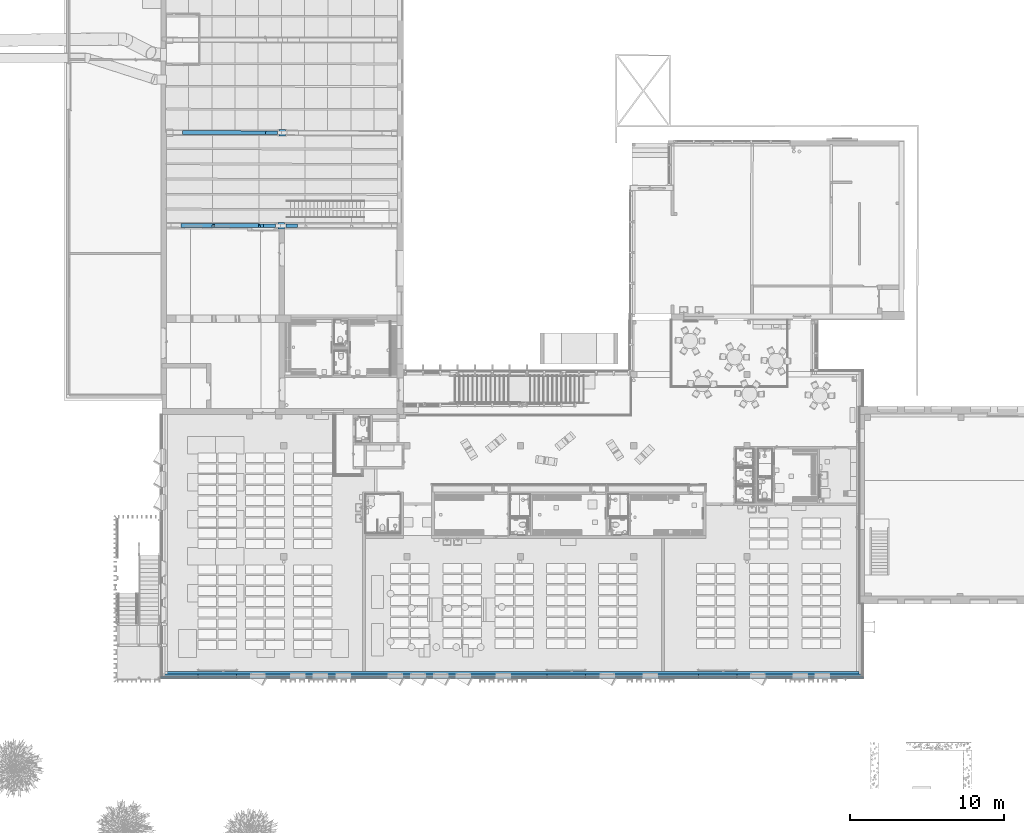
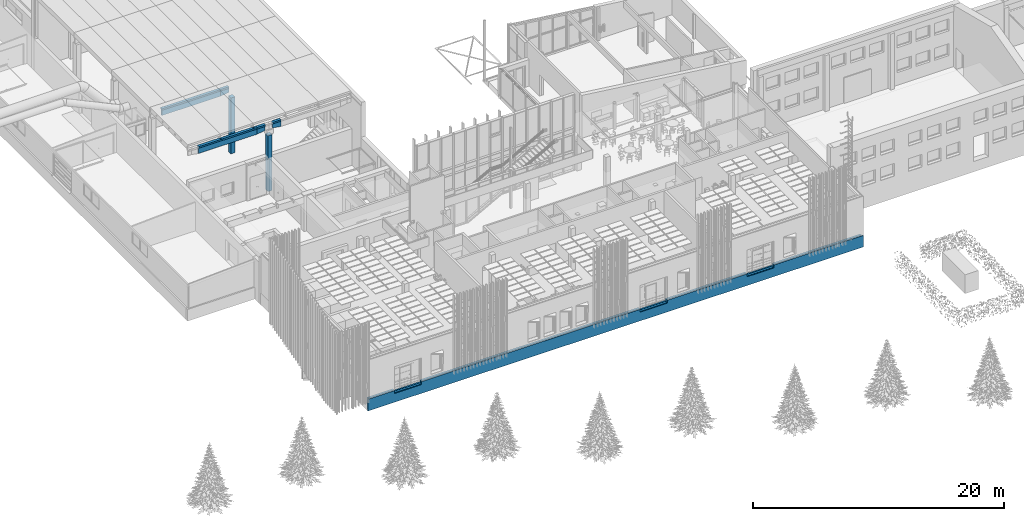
# One storey, part 183 of 301: 10 building element parts, 6 openings, 6 elements without a shape of their own.
"""IFC2X3 building model written with IfcOpenShell, lengths in millimetres."""

from ifc_helpers import new_model, entity, si_unit, converted_unit, derived_unit, money_unit, direction, frame, origin_with_axes, place, context, subcontext, project, spatial, faceted_brep, material, type_object, element, aggregate, save


model = new_model("IFC2X3")

# Units and contexts
model_context = context("Model", 3, precision=0.01, world=origin_with_axes(), true_north=direction((0.0, 1.0)))
body_context = subcontext(model_context, "Body", "Model", "MODEL_VIEW")
ifc_project = project(units=[si_unit("LENGTHUNIT", "METRE", prefix="MILLI"), si_unit("AREAUNIT", "SQUARE_METRE"), si_unit("VOLUMEUNIT", "CUBIC_METRE"), converted_unit("PLANEANGLEUNIT", "DEGREE", entity("IfcPlaneAngleMeasure", 0.0174532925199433), si_unit("PLANEANGLEUNIT", "RADIAN"), dimensions=[0, 0, 0, 0, 0, 0, 0]), money_unit("EUR"), converted_unit("TIMEUNIT", "Year", entity("IfcTimeMeasure", 31557600.0), si_unit("TIMEUNIT", "SECOND"), dimensions=[0, 0, 1, 0, 0, 0, 0]), si_unit("MASSUNIT", "GRAM", prefix="KILO"), si_unit("THERMODYNAMICTEMPERATUREUNIT", "DEGREE_CELSIUS"), si_unit("LUMINOUSINTENSITYUNIT", "LUMEN"), si_unit("ENERGYUNIT", "JOULE", prefix="MEGA"), derived_unit("THERMALCONDUCTANCEUNIT", [(si_unit("POWERUNIT", "WATT"), 1), (si_unit("LENGTHUNIT", "METRE"), -1), (si_unit("THERMODYNAMICTEMPERATUREUNIT", "KELVIN"), -1)]), derived_unit("SPECIFICHEATCAPACITYUNIT", [(si_unit("ENERGYUNIT", "JOULE"), 1), (si_unit("MASSUNIT", "GRAM", prefix="KILO"), -1), (si_unit("THERMODYNAMICTEMPERATUREUNIT", "KELVIN"), -1)]), derived_unit("MASSDENSITYUNIT", [(si_unit("MASSUNIT", "GRAM", prefix="KILO"), 1), (si_unit("VOLUMEUNIT", "CUBIC_METRE"), -1)])], contexts=[model_context])

# Site, building, storey
site_placement = place(None, frame((0.0, 0.0, 8650.0), z_axis=(0.0, 0.0, 1.0), x_axis=(1.0, 0.0, 0.0)))
site = spatial("IfcSite", under=ifc_project, at=site_placement, Name="43301:001:0844", CompositionType="ELEMENT")
building_placement = place(site_placement, origin_with_axes())
building = spatial("IfcBuilding", under=site, at=building_placement, Name="Kuressaare Ametikooli tuulikute mehaanikute õppekorpus", CompositionType="ELEMENT")
storey_placement = place(building_placement, origin_with_axes())
storey = spatial("IfcBuildingStorey", under=building, at=storey_placement, Name="1.korrus", CompositionType="ELEMENT", Elevation=0.0)

# Wall, openings, building element parts
wall_type = type_object("IfcWallType", Name="TUUL_vundament 440 x 1150", PredefinedType="NOTDEFINED")
wall_placement = place(storey_placement, frame((88168.22664518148, 8973.838490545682, 0.0), z_axis=(0.0, 0.0, 1.0), x_axis=(1.0, 0.0, 0.0)))
wall = element("IfcWall", 1, at=wall_placement, inside=storey, type_object=wall_type, Name="Sokkel")
opening_1_placement = place(wall_placement, frame((3369.784964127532, 0.0, 11300.0), z_axis=(0.0, 0.0, 1.0), x_axis=(1.0, 0.0, 0.0)))
element("IfcOpeningElement", 2, at=opening_1_placement, cuts=wall, Name="ava", context=body_context, shape_type="Brep", body=[
    faceted_brep([(1250.0, -119.9999999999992, 0.0), (1250.0, -119.9999999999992, 300.0000000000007), (1250.0, -290.9999999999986, 300.0000000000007), (1250.0, -290.9999999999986, 0.0), (1250.0, 150.9999999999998, 0.0), (1250.0, 150.9999999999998, 300.0000000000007), (-1250.0, -119.9999999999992, 300.0000000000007), (-1250.0, -290.9999999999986, 300.0000000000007), (-1250.0, -290.9999999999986, 0.0), (-1250.0, -119.9999999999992, 0.0), (-1250.0, 150.9999999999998, 0.0), (-1250.0, 150.9999999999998, 300.0000000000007)], [[[0, 1, 2, 3]], [[1, 0, 4, 5]], [[1, 6, 7, 2]], [[8, 3, 2, 7]], [[9, 0, 3, 8]], [[0, 9, 10, 4]], [[5, 4, 10, 11]], [[6, 1, 5, 11]], [[6, 9, 8, 7]], [[9, 6, 11, 10]]]),
])
opening_2_placement = place(wall_placement, frame((2492.003890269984, 0.0, 11300.0), z_axis=(0.0, 0.0, 1.0), x_axis=(1.0, 0.0, 0.0)))
element("IfcOpeningElement", 3, at=opening_2_placement, cuts=wall, Name="ava", context=body_context, shape_type="Brep", body=[
    faceted_brep([(1250.0, -119.9999999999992, 0.0), (1250.0, -119.9999999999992, 300.0000000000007), (1250.0, -290.9999999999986, 300.0000000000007), (1250.0, -290.9999999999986, 0.0), (1250.0, 150.9999999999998, 0.0), (1250.0, 150.9999999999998, 300.0000000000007), (-1250.0, -119.9999999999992, 300.0000000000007), (-1250.0, -290.9999999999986, 300.0000000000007), (-1250.0, -290.9999999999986, 0.0), (-1250.0, -119.9999999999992, 0.0), (-1250.0, 150.9999999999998, 0.0), (-1250.0, 150.9999999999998, 300.0000000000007)], [[[0, 1, 2, 3]], [[1, 0, 4, 5]], [[1, 6, 7, 2]], [[8, 3, 2, 7]], [[9, 0, 3, 8]], [[0, 9, 10, 4]], [[5, 4, 10, 11]], [[6, 1, 5, 11]], [[6, 9, 8, 7]], [[9, 6, 11, 10]]]),
])
opening_3_placement = place(wall_placement, frame((2815.055578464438, 0.0, 11300.0), z_axis=(0.0, 0.0, 1.0), x_axis=(1.0, 0.0, 0.0)))
element("IfcOpeningElement", 4, at=opening_3_placement, cuts=wall, Name="ava", context=body_context, shape_type="Brep", body=[
    faceted_brep([(1250.0, -119.9999999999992, 0.0), (1250.0, -119.9999999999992, 300.0000000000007), (1250.0, -290.9999999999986, 300.0000000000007), (1250.0, -290.9999999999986, 0.0), (1250.0, 150.9999999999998, 0.0), (1250.0, 150.9999999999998, 300.0000000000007), (-1250.0, -119.9999999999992, 300.0000000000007), (-1250.0, -290.9999999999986, 300.0000000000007), (-1250.0, -290.9999999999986, 0.0), (-1250.0, -119.9999999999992, 0.0), (-1250.0, 150.9999999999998, 0.0), (-1250.0, 150.9999999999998, 300.0000000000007)], [[[0, 1, 2, 3]], [[1, 0, 4, 5]], [[1, 6, 7, 2]], [[8, 3, 2, 7]], [[9, 0, 3, 8]], [[0, 9, 10, 4]], [[5, 4, 10, 11]], [[6, 1, 5, 11]], [[6, 9, 8, 7]], [[9, 6, 11, 10]]]),
])
opening_4_placement = place(wall_placement, frame((26008.04637146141, 0.0, 0.0), z_axis=(0.0, 0.0, 1.0), x_axis=(1.0, 0.0, 0.0)))
element("IfcOpeningElement", 5, at=opening_4_placement, cuts=wall, Name="ava", context=body_context, shape_type="Brep", body=[
    faceted_brep([(1250.0, -119.9999999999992, 0.0), (1250.0, -119.9999999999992, 300.0), (1250.0, -290.9999999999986, 300.0), (1250.0, -290.9999999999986, 0.0), (1250.0, 150.9999999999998, 0.0), (1250.0, 150.9999999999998, 300.0), (-1250.0, -119.9999999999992, 300.0), (-1250.0, -290.9999999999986, 300.0), (-1250.0, -290.9999999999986, 0.0), (-1250.0, -119.9999999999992, 0.0), (-1250.0, 150.9999999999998, 0.0), (-1250.0, 150.9999999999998, 300.0)], [[[0, 1, 2, 3]], [[1, 0, 4, 5]], [[1, 6, 7, 2]], [[8, 3, 2, 7]], [[9, 0, 3, 8]], [[0, 9, 10, 4]], [[5, 4, 10, 11]], [[6, 1, 5, 11]], [[6, 9, 8, 7]], [[9, 6, 11, 10]]]),
])
opening_5_placement = place(wall_placement, frame((35837.49311050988, 0.0, 0.0), z_axis=(0.0, 0.0, 1.0), x_axis=(1.0, 0.0, 0.0)))
element("IfcOpeningElement", 6, at=opening_5_placement, cuts=wall, Name="ava", context=body_context, shape_type="Brep", body=[
    faceted_brep([(1250.0, -119.9999999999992, 0.0), (1250.0, -119.9999999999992, 300.0), (1250.0, -290.9999999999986, 300.0), (1250.0, -290.9999999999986, 0.0), (1250.0, 150.9999999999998, 0.0), (1250.0, 150.9999999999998, 300.0), (-1250.0, -119.9999999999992, 300.0), (-1250.0, -290.9999999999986, 300.0), (-1250.0, -290.9999999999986, 0.0), (-1250.0, -119.9999999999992, 0.0), (-1250.0, 150.9999999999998, 0.0), (-1250.0, 150.9999999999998, 300.0)], [[[0, 1, 2, 3]], [[1, 0, 4, 5]], [[1, 6, 7, 2]], [[8, 3, 2, 7]], [[9, 0, 3, 8]], [[0, 9, 10, 4]], [[5, 4, 10, 11]], [[6, 1, 5, 11]], [[6, 9, 8, 7]], [[9, 6, 11, 10]]]),
])
opening_6_placement = place(wall_placement, frame((3395.493110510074, 0.0, 0.0), z_axis=(0.0, 0.0, 1.0), x_axis=(1.0, 0.0, 0.0)))
element("IfcOpeningElement", 7, at=opening_6_placement, cuts=wall, Name="ava", context=body_context, shape_type="Brep", body=[
    faceted_brep([(1250.0, -119.9999999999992, 0.0), (1250.0, -119.9999999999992, 300.0), (1250.0, -290.9999999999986, 300.0), (1250.0, -290.9999999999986, 0.0), (1250.0, 150.9999999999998, 0.0), (1250.0, 150.9999999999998, 300.0), (-1250.0, -119.9999999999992, 300.0), (-1250.0, -290.9999999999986, 300.0), (-1250.0, -290.9999999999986, 0.0), (-1250.0, -119.9999999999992, 0.0), (-1250.0, 150.9999999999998, 0.0), (-1250.0, 150.9999999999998, 300.0)], [[[0, 1, 2, 3]], [[1, 0, 4, 5]], [[1, 6, 7, 2]], [[8, 3, 2, 7]], [[9, 0, 3, 8]], [[0, 9, 10, 4]], [[5, 4, 10, 11]], [[6, 1, 5, 11]], [[6, 9, 8, 7]], [[9, 6, 11, 10]]]),
])
ifc_material_1 = material(Name="Betoon - C30/37")
building_element_part_1_placement = place(wall_placement, origin_with_axes())
building_element_part_1 = element("IfcBuildingElementPart", 8, at=building_element_part_1_placement, material=ifc_material_1, Name="Betoon - C30/37", context=body_context, shape_type="Brep", body=[
    faceted_brep([(-4.47035120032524e-06, 150.0000000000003, -850.0000000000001), (-4.47035120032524e-06, 150.0000000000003, 8.195646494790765e-06), (45006.71980093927, 150.0000000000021, 8.195646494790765e-06), (45006.71980093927, 150.0000000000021, -850.0000000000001), (-4.47035120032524e-06, 0.0, 8.195646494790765e-06), (-4.47035120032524e-06, 0.0, -850.0000000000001), (45006.71980093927, 0.0, 8.195646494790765e-06), (45006.71980093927, 0.0, -850.0000000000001)], [[[0, 1, 2, 3]], [[4, 1, 0, 5]], [[1, 4, 6, 2]], [[3, 2, 6, 7]], [[5, 0, 3, 7]], [[4, 5, 7, 6]]]),
])
ifc_material_2 = material(Name="Soojustus - Vahtpolüstüreen")
building_element_part_2_placement = place(wall_placement, origin_with_axes())
building_element_part_2 = element("IfcBuildingElementPart", 9, at=building_element_part_2_placement, material=ifc_material_2, Name="Soojustus - Vahtpolüstüreen", context=body_context, shape_type="Brep", body=[
    faceted_brep([(37087.49311050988, -4.470349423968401e-06, 0.0), (37087.49311050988, -4.470349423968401e-06, 300.0000000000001), (45206.71979646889, -4.470349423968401e-06, 300.0000000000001), (45206.71979646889, -4.470349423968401e-06, 0.0), (37087.49311050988, -119.9999999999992, 300.0000000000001), (37087.49311050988, -200.0000104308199, 0.0), (37087.49311050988, -200.0000104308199, 300.0000000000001), (45206.71979646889, -200.0000104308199, 300.0000000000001), (45206.71979646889, -200.0000104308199, -850.0000000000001), (45206.71979646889, -4.470349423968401e-06, -850.0000000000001), (34587.49311050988, -4.47035120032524e-06, 0.0), (-200.0000000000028, -4.470352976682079e-06, -850.0000000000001), (-200.0000000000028, -4.470352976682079e-06, 0.0), (2145.493110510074, -4.470352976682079e-06, 0.0), (4645.493110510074, -4.470352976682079e-06, 0.0), (24758.04637146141, -4.47035120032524e-06, 0.0), (27258.04637146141, -4.47035120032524e-06, 0.0), (34587.49311050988, -200.0000104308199, 0.0), (34587.49311050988, -200.0000104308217, 300.0000000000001), (27258.04637146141, -200.0000104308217, 300.0000000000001), (27258.04637146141, -200.0000104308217, 0.0), (24758.04637146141, -200.0000104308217, 0.0), (24758.04637146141, -200.0000104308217, 300.0000000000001), (4645.493110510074, -200.0000104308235, 300.0000000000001), (4645.493110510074, -200.0000104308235, 0.0), (2145.493110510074, -200.0000104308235, 0.0), (2145.493110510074, -200.0000104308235, 300.0000000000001), (-200.0000000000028, -200.0000104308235, 300.0000000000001), (-200.0000000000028, -200.0000104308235, -850.0000000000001), (-200.0000000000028, -4.470352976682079e-06, 300.0000000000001), (2145.493110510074, -4.470352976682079e-06, 300.0000000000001), (4645.493110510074, -4.470352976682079e-06, 300.0000000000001), (24758.04637146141, -4.47035120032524e-06, 300.0000000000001), (34587.49311050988, -4.47035120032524e-06, 300.0000000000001), (27258.04637146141, -4.47035120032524e-06, 300.0000000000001), (34587.49311050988, -119.9999999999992, 300.0000000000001)], [[[0, 1, 2, 3]], [[4, 1, 0, 5, 6]], [[1, 4, 6, 7, 2]], [[7, 8, 9, 3, 2]], [[10, 0, 3, 9, 11, 12, 13, 14, 15, 16]], [[0, 10, 17, 5]], [[7, 6, 5, 17, 18, 19, 20, 21, 22, 23, 24, 25, 26, 27, 28, 8]], [[9, 8, 28, 11]], [[12, 11, 28, 27, 29]], [[30, 13, 12, 29]], [[14, 13, 25, 24]], [[14, 31, 32, 15]], [[21, 20, 16, 15]], [[33, 10, 16, 34]], [[10, 33, 35, 18, 17]], [[35, 33, 34, 19, 18]], [[20, 19, 34, 16]], [[22, 21, 15, 32]], [[23, 22, 32, 31]], [[31, 14, 24, 23]], [[13, 30, 26, 25]], [[30, 29, 27, 26]]]),
])
building_element_part_3_placement = place(wall_placement, origin_with_axes())
building_element_part_3 = element("IfcBuildingElementPart", 10, at=building_element_part_3_placement, material=ifc_material_1, Name="Betoon - C30/37", context=body_context, shape_type="Brep", body=[
    faceted_brep([(34587.49311050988, -199.9999999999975, 0.0), (37087.49311050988, -199.9999999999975, 0.0), (37087.49311050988, -199.9999999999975, 300.0000000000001), (45206.71981733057, -199.9999999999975, 300.0000000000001), (45296.71979944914, -199.9999999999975, 279.9999925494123), (45296.71979944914, -199.9999999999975, -850.0000000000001), (-289.999989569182, -199.9999999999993, -850.0000000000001), (-289.9999895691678, -200.0000000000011, 279.9999925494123), (-200.0000074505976, -199.9999999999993, 300.0000000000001), (2145.493110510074, -199.9999999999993, 300.0000000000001), (2145.493110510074, -199.9999999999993, 0.0), (4645.493110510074, -199.9999999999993, 0.0), (4645.493110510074, -199.9999999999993, 300.0000000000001), (24758.04637146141, -199.9999999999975, 300.0000000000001), (24758.04637146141, -199.9999999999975, 0.0), (27258.04637146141, -199.9999999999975, 0.0), (27258.04637146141, -199.9999999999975, 300.0000000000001), (34587.49311050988, -199.9999999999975, 300.0000000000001), (34587.49311050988, -289.9999999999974, 0.0), (37087.49311050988, -289.9999999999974, 0.0), (37087.49311050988, -289.9999999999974, 279.9999925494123), (45296.71979944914, -289.9999999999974, 279.9999925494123), (45296.71979944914, -289.9999999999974, -850.0000000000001), (-289.999989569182, -289.9999999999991, -850.0000000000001), (-289.9999895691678, -289.9999999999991, 279.9999925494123), (2145.493110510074, -289.9999999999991, 279.9999925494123), (2145.493110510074, -289.9999999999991, 0.0), (4645.493110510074, -289.9999999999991, 0.0), (4645.493110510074, -289.9999999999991, 279.9999925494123), (24758.04637146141, -289.9999999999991, 279.9999925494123), (24758.04637146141, -289.9999999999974, 0.0), (27258.04637146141, -289.9999999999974, 0.0), (27258.04637146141, -289.9999999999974, 279.9999925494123), (34587.49311050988, -289.9999999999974, 279.9999925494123)], [[[0, 1, 2, 3, 4, 5, 6, 7, 8, 9, 10, 11, 12, 13, 14, 15, 16, 17]], [[1, 0, 18, 19]], [[20, 2, 1, 19]], [[2, 20, 21, 3]], [[4, 3, 21]], [[22, 5, 4, 21]], [[22, 23, 6, 5]], [[24, 7, 6, 23]], [[24, 8, 7]], [[8, 24, 25, 9]], [[25, 26, 10, 9]], [[26, 27, 11, 10]], [[11, 27, 28, 12]], [[13, 12, 28, 29]], [[13, 29, 30, 14]], [[14, 30, 31, 15]], [[16, 15, 31, 32]], [[33, 17, 16, 32]], [[0, 17, 33, 18]], [[18, 33, 32, 31, 30, 29, 28, 27, 26, 25, 24, 23, 22, 21, 20, 19]]]),
])
aggregate(wall, [building_element_part_1, building_element_part_2, building_element_part_3])

# Column, building element part
column_type = type_object("IfcColumnType", Name="Various Structures - 3 Segments - 600 x 400 x 5950 (5433+102+415)", PredefinedType="NOTDEFINED")
column_1_placement = place(storey_placement, frame((95767.28142057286, 44068.92395887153, 130.0), z_axis=(0.0, 0.0, 1.0), x_axis=(1.0, 0.0, 0.0)))
column_1 = element("IfcColumn", 11, at=column_1_placement, inside=storey, type_object=column_type)
ifc_material_3 = material(Name="GENEERILINE - KONSTRUKTRIOON")
building_element_part_4_placement = place(column_1_placement, origin_with_axes())
building_element_part_4 = element("IfcBuildingElementPart", 12, at=building_element_part_4_placement, material=ifc_material_3, Name="GENEERILINE - KONSTRUKTRIOON", context=body_context, shape_type="Brep", body=[
    faceted_brep([(-200.0000000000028, -200.0000000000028, 5432.979557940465), (-200.0000000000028, -200.0000000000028, 0.0), (200.0000000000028, -200.0000000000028, 0.0), (200.0000000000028, -200.0000000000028, 5432.979557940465), (-200.0000000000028, 200.0000000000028, 5432.979557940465), (-200.0000000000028, 200.0000000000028, 0.0), (200.0000000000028, 200.0000000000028, 0.0), (200.0000000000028, 200.0000000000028, 5432.979557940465)], [[[0, 1, 2, 3]], [[4, 5, 1, 0]], [[2, 1, 5, 6]], [[3, 2, 6, 7]], [[4, 0, 3, 7]], [[7, 6, 5, 4]]]),
])
aggregate(column_1, [building_element_part_4])

# Beam, building element parts
beam_type_1 = type_object("IfcBeamType", Name="Various Structures - 5 Segments - 250 x 700 x 7470 (262+767+5400+621+420)", PredefinedType="NOTDEFINED")
beam_1_placement = place(storey_placement, frame((95728.83666082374, 44073.08587643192, 6660.0), z_axis=(0.0, 0.0, 1.0), x_axis=(0.001777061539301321, 0.9999984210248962, 0.0)))
beam_1 = element("IfcBeam", 13, at=beam_1_placement, inside=storey, type_object=beam_type_1)
ifc_material_4 = material(Name="Raudbetoon")
building_element_part_5_placement = place(beam_1_placement, origin_with_axes())
building_element_part_5 = element("IfcBuildingElementPart", 14, at=building_element_part_5_placement, material=ifc_material_4, Name="Raudbetoon", context=body_context, shape_type="Brep", body=[
    faceted_brep([(125.0049071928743, 837.1265623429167, 0.0), (125.0047820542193, 1028.909484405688, 0.0), (99.19116512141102, 1028.909484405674, 0.0), (97.9539458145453, 261.7777961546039, 0.0), (125.0052826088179, 261.7777961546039, 0.0), (125.0051574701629, 453.5607182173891, 0.0), (125.0046161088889, 1028.909484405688, -75.00000000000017), (-119.9676641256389, 1028.909484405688, 0.0), (-119.96765147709, 1028.909484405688, -4.176709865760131), (99.19115247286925, 1028.909484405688, -4.176709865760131), (125.0044501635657, 1028.909484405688, -150.0000000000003), (64.99999999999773, 1028.909484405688, -164.4010680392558), (64.99999999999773, 1028.909484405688, -699.9999999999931), (-64.99999999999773, 1028.909484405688, -699.9999999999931), (-64.99999999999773, 1028.909484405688, -164.4010680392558), (-125.0044501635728, 1028.909484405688, -150.0000000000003), (-125.004616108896, 1028.909484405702, -75.00000000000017), (-125.0047820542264, 1028.909484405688, 0.0), (97.95393316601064, 261.7777961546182, -4.176709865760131), (-121.2048707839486, 261.7777961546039, -4.176709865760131), (-121.2048834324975, 261.7777961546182, 0.0), (-125.0052826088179, 261.7777961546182, 0.0), (-125.00513693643, 261.7777961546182, -75.00000000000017), (-125.0049912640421, 261.7777961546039, -150.0000000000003), (-65.00000000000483, 261.7777961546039, -164.4011979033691), (-65.00000000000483, 261.7777961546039, -579.8231697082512), (64.99999999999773, 261.7777961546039, -579.8231697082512), (64.99999999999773, 261.7777961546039, -164.4011979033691), (125.004991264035, 261.7777961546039, -150.0000000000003), (125.0051369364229, 261.7777961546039, -75.00000000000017), (125.0048765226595, 645.3436402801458, -75.00000000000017), (125.0045854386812, 837.1265623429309, -150.0000000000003), (125.0048559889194, 453.5607182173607, -150.0000000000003), (-125.0045854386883, 837.1265623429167, -150.0000000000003), (-125.0048559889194, 453.5607182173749, -150.0000000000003), (-125.0049071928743, 837.1265623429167, 0.0), (-125.0051574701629, 453.5607182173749, 0.0), (-125.0048765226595, 645.3436402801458, -75.00000000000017)], [[[0, 1, 2, 3, 4, 5]], [[0, 6, 1]], [[7, 8, 9, 2, 1, 6, 10, 11, 12, 13, 14, 15, 16, 17]], [[2, 9, 18, 3]], [[3, 18, 19, 20, 21, 22, 23, 24, 25, 26, 27, 28, 29, 4]], [[4, 29, 5]], [[5, 30, 0]], [[31, 6, 0, 30]], [[19, 8, 7, 20]], [[9, 8, 19, 18]], [[31, 10, 6]], [[27, 11, 10, 31, 32, 28]], [[26, 12, 11, 27]], [[26, 25, 13, 12]], [[24, 14, 13, 25]], [[33, 15, 14, 24, 23, 34]], [[33, 16, 15]], [[35, 17, 16]], [[36, 21, 20, 7, 17, 35]], [[21, 36, 22]], [[23, 22, 34]], [[28, 32, 29]], [[32, 30, 5, 29]], [[32, 31, 30]], [[34, 37, 33]], [[35, 16, 33, 37]], [[36, 35, 37]], [[36, 37, 34, 22]]]),
])
building_element_part_6_placement = place(beam_1_placement, origin_with_axes())
building_element_part_6 = element("IfcBuildingElementPart", 15, at=building_element_part_6_placement, material=ifc_material_4, Name="Raudbetoon", context=body_context, shape_type="Brep", body=[
    faceted_brep([(125.0055545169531, 6428.927864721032, 0.0), (107.9002395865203, 6428.927864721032, 0.0), (99.19116512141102, 1028.909484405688, 0.0), (125.0055545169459, 1028.909484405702, 0.0), (-111.2585770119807, 6428.927864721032, -4.176709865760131), (107.9002269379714, 6428.927864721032, -4.176709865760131), (125.0052826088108, 6428.927864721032, -150.0000000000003), (64.99999999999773, 6428.927864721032, -164.4012678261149), (64.99999999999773, 6428.927864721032, -700.0000000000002), (-65.00000000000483, 6428.927864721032, -700.0000000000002), (-65.00000000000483, 6428.927864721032, -164.4012678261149), (-125.0052826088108, 6428.927864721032, -150.0000000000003), (-125.0055545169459, 6428.927864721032, 0.0), (-111.2585896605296, 6428.927864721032, 0.0), (99.19115247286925, 1028.909484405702, -4.176709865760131), (-119.9676514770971, 1028.909484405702, -4.176709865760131), (-119.9676641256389, 1028.909484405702, 0.0), (-125.0055545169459, 1028.909484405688, 0.0), (-125.0052826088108, 1028.909484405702, -150.0000000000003), (-64.99999999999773, 1028.909484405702, -164.4012678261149), (-64.99999999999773, 1028.909484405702, -700.0000000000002), (64.99999999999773, 1028.909484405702, -700.0000000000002), (64.99999999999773, 1028.909484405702, -164.4012678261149), (125.0052826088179, 1028.909484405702, -150.0000000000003)], [[[0, 1, 2, 3]], [[4, 5, 1, 0, 6, 7, 8, 9, 10, 11, 12, 13]], [[5, 14, 2, 1]], [[14, 15, 16, 17, 18, 19, 20, 21, 22, 23, 3, 2]], [[3, 23, 6, 0]], [[4, 15, 14, 5]], [[23, 22, 7, 6]], [[22, 21, 8, 7]], [[21, 20, 9, 8]], [[20, 19, 10, 9]], [[19, 18, 11, 10]], [[18, 17, 12, 11]], [[17, 16, 13, 12]], [[4, 13, 16, 15]]]),
])
aggregate(beam_1, [building_element_part_5, building_element_part_6])

# Beam, building element part
beam_type_2 = type_object("IfcBeamType", Name="Various Structures - 5 Segments - 250 x 700 x 7563 (338+766+5468+631+361)", PredefinedType="NOTDEFINED")
beam_2_placement = place(storey_placement, frame((95664.04856966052, 38039.92828517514, 6660.0), z_axis=(0.0, 0.0, 1.0), x_axis=(0.0, -1.0, 0.0)))
beam_2 = element("IfcBeam", 16, at=beam_2_placement, inside=storey, type_object=beam_type_2)
building_element_part_7_placement = place(beam_2_placement, origin_with_axes())
building_element_part_7 = element("IfcBuildingElementPart", 17, at=building_element_part_7_placement, material=ifc_material_4, Name="Raudbetoon", context=body_context, shape_type="Brep", body=[
    faceted_brep([(-123.6696711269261, 1103.687342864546, 0.0), (-125.0047820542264, 1103.687342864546, 0.0), (-125.0049071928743, 912.204711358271, 0.0), (-125.0051574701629, 529.2394483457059, 0.0), (-125.0051821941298, 491.4077321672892, 0.0), (-125.004616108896, 1103.687342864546, -75.00000000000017), (-123.6696557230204, 1103.687342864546, -5.086558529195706), (95.48938454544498, 1103.687342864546, -5.086558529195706), (95.48939994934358, 1103.687342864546, 0.0), (125.0047820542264, 1103.687342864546, 0.0), (125.004616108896, 1103.687342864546, -75.00000000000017), (125.0044501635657, 1103.687342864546, -150.0000000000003), (64.99999999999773, 1103.687342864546, -164.4010680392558), (64.99999999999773, 1103.687342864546, -699.999999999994), (-64.99999999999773, 1103.687342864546, -699.999999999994), (-64.99999999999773, 1103.687342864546, -164.4010680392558), (-125.0044501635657, 1103.687342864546, -150.0000000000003), (-125.0048765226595, 720.7220798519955, -75.00000000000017), (-125.0051369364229, 337.7568168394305, -75.00000000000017), (-125.0052727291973, 337.7568168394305, -5.086558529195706), (-125.0051723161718, 491.4051987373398, -5.086558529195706), (93.81872840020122, 337.7568168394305, -5.086558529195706), (93.81874380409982, 337.7568168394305, 0.0), (125.0052826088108, 337.7568168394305, 0.0), (125.0051574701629, 529.2394483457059, 0.0), (125.0049071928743, 912.204711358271, 0.0), (125.0045854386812, 912.204711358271, -150.0000000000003), (125.0048559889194, 529.2394483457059, -150.0000000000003), (125.004991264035, 337.7568168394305, -150.0000000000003), (64.99999999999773, 337.7568168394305, -164.4011979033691), (64.99999999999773, 337.7568168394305, -579.8231697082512), (-64.99999999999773, 337.7568168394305, -579.8231697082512), (-64.99999999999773, 337.7568168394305, -164.4011979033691), (-125.004991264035, 337.7568168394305, -150.0000000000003), (-125.0048559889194, 529.2394483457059, -150.0000000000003), (-125.0045854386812, 912.204711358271, -150.0000000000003), (125.0051369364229, 337.7568168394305, -75.00000000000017), (125.0048765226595, 720.7220798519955, -75.00000000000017)], [[[0, 1, 2, 3, 4]], [[5, 1, 0, 6, 7, 8, 9, 10, 11, 12, 13, 14, 15, 16]], [[1, 5, 2]], [[2, 17, 3]], [[4, 3, 18, 19, 20]], [[6, 0, 4, 20]], [[6, 20, 19, 21, 7]], [[22, 8, 7, 21]], [[23, 24, 25, 9, 8, 22]], [[10, 9, 25]], [[11, 10, 26]], [[27, 28, 29, 12, 11, 26]], [[12, 29, 30, 13]], [[14, 13, 30, 31]], [[14, 31, 32, 15]], [[33, 34, 35, 16, 15, 32]], [[5, 16, 35]], [[35, 17, 2, 5]], [[34, 18, 3, 17]], [[28, 36, 23, 22, 21, 19, 18, 33, 32, 31, 30, 29]], [[36, 24, 23]], [[37, 25, 24]], [[25, 37, 26, 10]], [[27, 36, 28]], [[26, 37, 27]], [[18, 34, 33]], [[17, 35, 34]], [[24, 36, 27, 37]]]),
])
aggregate(beam_2, [building_element_part_7])

# Column, building element part
column_2_placement = place(storey_placement, frame((95702.04856966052, 38045.77166488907, 130.0), z_axis=(0.0, 0.0, 1.0), x_axis=(1.0, 0.0, 0.0)))
column_2 = element("IfcColumn", 18, at=column_2_placement, inside=storey, type_object=column_type)
building_element_part_8_placement = place(column_2_placement, origin_with_axes())
building_element_part_8 = element("IfcBuildingElementPart", 19, at=building_element_part_8_placement, material=ifc_material_3, Name="GENEERILINE - KONSTRUKTRIOON", context=body_context, shape_type="Brep", body=[
    faceted_brep([(-200.0000000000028, -200.0000000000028, 5432.979557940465), (-200.0000000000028, -200.0000000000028, 0.0), (200.0000000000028, -200.0000000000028, 0.0), (200.0000000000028, -200.0000000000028, 5432.979557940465), (-200.0000000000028, 200.0000000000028, 5432.979557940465), (-200.0000000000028, 200.0000000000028, 0.0), (200.0000000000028, 200.0000000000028, 0.0), (200.0000000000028, 200.0000000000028, 5432.979557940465)], [[[0, 1, 2, 3]], [[4, 5, 1, 0]], [[2, 1, 5, 6]], [[3, 2, 6, 7]], [[4, 0, 3, 7]], [[7, 6, 5, 4]]]),
])
aggregate(column_2, [building_element_part_8])

# Beam, building element parts
beam_type_3 = type_object("IfcBeamType", Name="Various Structures - 5 Segments - 250 x 700 x 7406 (338+766+5361+631+310)", PredefinedType="NOTDEFINED")
beam_3_placement = place(storey_placement, frame((95664.04856966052, 38039.92828517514, 6660.0), z_axis=(0.0, 0.0, 1.0), x_axis=(0.00439378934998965, 0.9999903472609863, 0.0)))
beam_3 = element("IfcBeam", 20, at=beam_3_placement, inside=storey, type_object=beam_type_3)
building_element_part_9_placement = place(beam_3_placement, origin_with_axes())
building_element_part_9 = element("IfcBuildingElementPart", 21, at=building_element_part_9_placement, material=ifc_material_4, Name="Raudbetoon", context=body_context, shape_type="Brep", body=[
    faceted_brep([(-125.0045854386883, 912.204711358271, -150.0000000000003), (-125.0046161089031, 1103.687342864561, -75.00000000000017), (-125.0044501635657, 1103.687342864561, -150.0000000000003), (-125.0049071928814, 912.2047113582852, 0.0), (-125.0048765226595, 720.7220798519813, -75.00000000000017), (-65.00000000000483, 1103.687342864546, -164.4010680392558), (-125.0047820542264, 1103.687342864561, 0.0), (-95.52404935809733, 1103.687342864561, 0.0), (-95.52403395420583, 1103.687342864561, -5.086558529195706), (123.6350214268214, 1103.687342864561, -5.086558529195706), (123.6350368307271, 1103.687342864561, 0.0), (125.0047820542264, 1103.687342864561, 0.0), (125.004616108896, 1103.687342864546, -75.00000000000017), (125.0044501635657, 1103.687342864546, -150.0000000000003), (64.99999999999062, 1103.687342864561, -164.4010680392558), (64.99999999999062, 1103.687342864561, -699.9104441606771), (-65.00000000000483, 1103.687342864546, -699.9999999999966), (-64.99999999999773, 337.7568168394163, -164.4011979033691), (-125.0049912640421, 337.7568168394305, -150.0000000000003), (-125.0048559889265, 529.2394483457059, -150.0000000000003), (-125.00515747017, 529.2394483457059, 0.0), (-93.82935187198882, 337.7568168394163, 0.0), (-125.0052826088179, 337.7568168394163, 0.0), (-93.82933646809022, 337.7568168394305, -5.086558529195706), (125.0051768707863, 484.4358903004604, -5.086558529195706), (125.0052727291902, 337.7568168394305, -5.086558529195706), (125.0051867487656, 484.4383877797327, 0.0), (125.0049071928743, 912.2047113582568, 0.0), (125.0051574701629, 529.2394483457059, 0.0), (125.0045854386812, 912.204711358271, -150.0000000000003), (64.99999999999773, 337.7568168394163, -164.4011979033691), (125.0048559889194, 529.2394483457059, -150.0000000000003), (125.0049912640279, 337.7568168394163, -150.0000000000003), (64.99999999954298, 338.8838204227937, -580.0000000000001), (64.99999999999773, 337.7568168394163, -579.8231697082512), (-64.99999999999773, 337.7568168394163, -579.8231697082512), (-125.00513693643, 337.7568168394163, -75.00000000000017), (125.0051369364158, 337.7568168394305, -75.00000000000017), (125.0048765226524, 720.7220798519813, -75.00000000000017)], [[[0, 1, 2]], [[3, 1, 0, 4]], [[5, 2, 1, 6, 7, 8, 9, 10, 11, 12, 13, 14, 15, 16]], [[0, 2, 5, 17, 18, 19]], [[3, 6, 1]], [[4, 0, 19]], [[3, 4, 20]], [[21, 7, 6, 3, 20, 22]], [[23, 8, 7, 21]], [[24, 9, 8, 23, 25]], [[26, 10, 9, 24]], [[27, 11, 10, 26, 28]], [[27, 12, 11]], [[29, 13, 12]], [[30, 14, 13, 29, 31, 32]], [[33, 15, 14, 30, 34]], [[33, 16, 15]], [[17, 5, 16, 35]], [[22, 36, 18, 17, 35, 34, 30, 32, 37, 25, 23, 21]], [[36, 19, 18]], [[4, 19, 36, 20]], [[36, 22, 20]], [[28, 26, 24, 25, 37]], [[38, 27, 28]], [[38, 29, 12, 27]], [[38, 31, 29]], [[31, 37, 32]], [[34, 35, 16, 33]], [[37, 31, 38, 28]]]),
])
building_element_part_10_placement = place(beam_3_placement, origin_with_axes())
building_element_part_10 = element("IfcBuildingElementPart", 22, at=building_element_part_10_placement, material=ifc_material_4, Name="Raudbetoon", context=body_context, shape_type="Brep", body=[
    faceted_brep([(-64.99999999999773, 1103.687342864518, -164.4012678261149), (-64.99999999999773, 1103.687342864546, -699.9999999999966), (64.99999999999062, 1103.687342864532, -699.9104441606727), (64.99999999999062, 1103.687342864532, -164.4012678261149), (125.0052826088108, 1103.687342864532, -150.0000000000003), (125.0055545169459, 1103.687342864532, 0.0), (123.6350368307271, 1103.687342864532, 0.0), (123.6350214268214, 1103.687342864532, -5.086558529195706), (-95.52403395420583, 1103.687342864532, -5.086558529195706), (-95.52404935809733, 1103.687342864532, 0.0), (-125.0055545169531, 1103.687342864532, 0.0), (-125.0052826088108, 1103.687342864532, -150.0000000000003), (-65.00000000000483, 6464.780952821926, -164.4012678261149), (-65.00000000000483, 6464.780952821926, -700.0000000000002), (64.99999999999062, 1104.258540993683, -699.9999999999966), (64.99999999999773, 6464.780952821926, -700.0000000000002), (64.99999999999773, 6464.780952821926, -164.4012678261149), (125.0052826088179, 6464.780952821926, -150.0000000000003), (125.0055543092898, 1445.736898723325, 0.0), (125.0055091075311, 1441.803254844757, -25.00013400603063), (125.0055091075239, 1366.799240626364, -25.00013400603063), (125.0055543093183, 1366.799241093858, -0.0001340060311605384), (125.0055545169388, 6464.780952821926, 0.0), (125.0055543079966, 4378.59476409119, 0.0), (125.0055091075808, 4378.594764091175, -25.00013400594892), (125.0055091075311, 4308.591019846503, -25.00013400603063), (125.0055543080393, 4304.042826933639, 0.0), (123.0529202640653, 1366.779045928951, -0.0001340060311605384), (123.0529048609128, 1366.779045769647, -5.086558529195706), (12.36773321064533, 1365.634281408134, -5.086558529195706), (13.12913639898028, 1292.015600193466, -5.086558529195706), (-95.9382330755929, 1290.887567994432, -5.086558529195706), (-95.93620102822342, 1289.962207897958, 0.0), (-125.0055545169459, 1289.661557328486, 0.0), (-125.0055091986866, 1294.209751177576, -25.00013400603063), (-125.0055091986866, 1439.21750917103, -25.00013400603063), (-125.0055545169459, 1443.151152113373, 0.0), (-125.0055545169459, 4301.457080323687, 0.0), (-125.0055091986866, 4306.00527417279, -25.00013400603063), (-125.0055091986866, 4434.935798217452, -25.00013400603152), (-125.0055545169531, 4439.483991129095, 0.0), (-125.0055545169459, 6464.780952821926, 0.0), (-125.0052826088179, 6464.780952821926, -150.0000000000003), (-107.3860023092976, 6464.780952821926, 0.0), (-107.3859869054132, 6464.78095282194, -5.086558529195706), (111.773068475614, 6464.780952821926, -5.086558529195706), (111.7730838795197, 6464.78095282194, 0.0), (-96.27401805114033, 1442.647964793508, -5.086558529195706), (-96.27580425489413, 1443.448290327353, 0.0), (122.8782668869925, 1445.714876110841, -0.0001340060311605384), (122.8800222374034, 1444.914571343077, -5.086558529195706), (13.09167137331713, 1295.638024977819, -25.00013400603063), (12.36773321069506, 1365.634281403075, -25.00013400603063), (116.3891755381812, 4378.505649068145, -0.0001340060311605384), (116.3891601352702, 4378.505648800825, -5.086558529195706), (15.6207878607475, 4377.463449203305, -5.086558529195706), (15.62078785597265, 4377.463449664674, -25.00013400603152), (15.01140123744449, 4436.383926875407, -25.00013400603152), (-102.5999457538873, 4301.688810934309, 0.0), (-102.6019778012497, 4302.614171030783, -5.086558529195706), (116.5520624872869, 4304.880777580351, -5.086558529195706), (116.5541253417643, 4303.955417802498, 0.0), (14.97393621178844, 4440.006351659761, -5.086558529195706), (-102.9032741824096, 4438.787203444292, -5.086558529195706), (-102.9053370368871, 4439.712563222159, 0.0)], [[[0, 1, 2, 3, 4, 5, 6, 7, 8, 9, 10, 11]], [[12, 13, 1, 0]], [[1, 14, 2]], [[3, 2, 14, 15, 16]], [[16, 17, 4, 3]], [[18, 19, 20, 21, 5, 4, 17, 22, 23, 24, 25, 26]], [[6, 5, 21, 27]], [[7, 6, 27, 28]], [[8, 7, 28, 29, 30, 31]], [[9, 8, 31, 32]], [[10, 9, 32, 33]], [[34, 35, 36, 37, 38, 39, 40, 41, 42, 11, 10, 33]], [[42, 12, 0, 11]], [[15, 13, 12, 42, 41, 43, 44, 45, 46, 22, 17, 16]], [[15, 14, 1, 13]], [[47, 48, 36, 35, 19, 18, 49, 50]], [[34, 51, 52, 20, 19, 35]], [[21, 20, 52, 29, 28, 27]], [[22, 46, 53, 23]], [[23, 53, 54, 55, 56, 24]], [[25, 24, 56, 57, 39, 38]], [[26, 25, 38, 37, 58, 59, 60, 61]], [[26, 61, 49, 18]], [[51, 30, 29, 52]], [[34, 33, 32, 31, 30, 51]], [[58, 37, 36, 48]], [[39, 57, 62, 63, 64, 40]], [[41, 40, 64, 43]], [[43, 64, 63, 44]], [[63, 62, 55, 54, 45, 44]], [[46, 45, 54, 53]], [[59, 58, 48, 47]], [[61, 60, 50, 49]], [[60, 59, 47, 50]], [[62, 57, 56, 55]]]),
])
aggregate(beam_3, [building_element_part_9, building_element_part_10])

save(model, "model.ifc")
